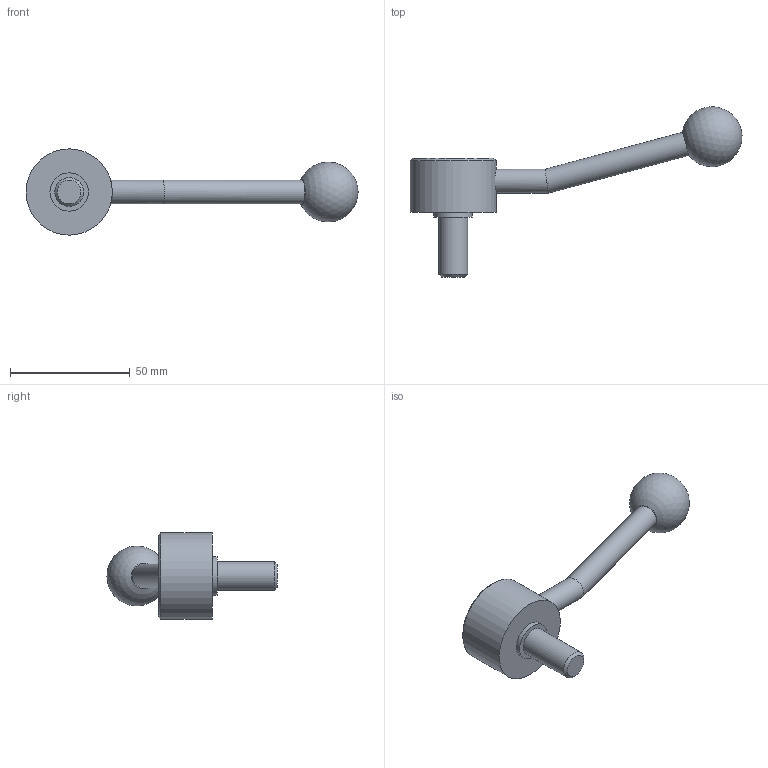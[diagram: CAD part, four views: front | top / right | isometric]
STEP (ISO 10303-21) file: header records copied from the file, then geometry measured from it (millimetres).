
FILE_DESCRIPTION( ( 'STEP AP203' ), '1' );
FILE_NAME( 'C:/Temp/Ganter_Step_05_03_2020/data/2_1/gn_125/gn_125_ms/gn_125_ms_e/Flat Adjustable Lever GN 125-36-M12-25-E.stp', '2020-03-05T11:00:59', ( 'License CC BY-ND 4.0' ), ( 'CADENAS' ), ' ', 'PARTsolutions', ' ' );
FILE_SCHEMA( ( 'CONFIG_CONTROL_DESIGN' ) );
Length unit declared in the file: millimetre
Products named in the file (1): _Flat Adjustable Lever GN 125-36-M12-25-E
Bounding box: 138.41 x 70.93 x 36 mm (x, y, z)
Volume: 40428.8 mm3; surface area: 9909.4 mm2
Topology: 1 solids, 1 shells, 15 faces, 25 edges, 16 vertices
Faces by surface type: cylinder 6, plane 6, cone 2, sphere 1
Full cylindrical faces by diameter (mm): 10 x2, 12 x1, 16 x1, 26 x1, 36 x1
Entity records: 412 total; most frequent: CARTESIAN_POINT 118, DIRECTION 58, AXIS2_PLACEMENT_3D 29, EDGE_LOOP 28, ORIENTED_EDGE 28, FACE_OUTER_BOUND 21, ADVANCED_FACE 15, VERTEX_POINT 15
